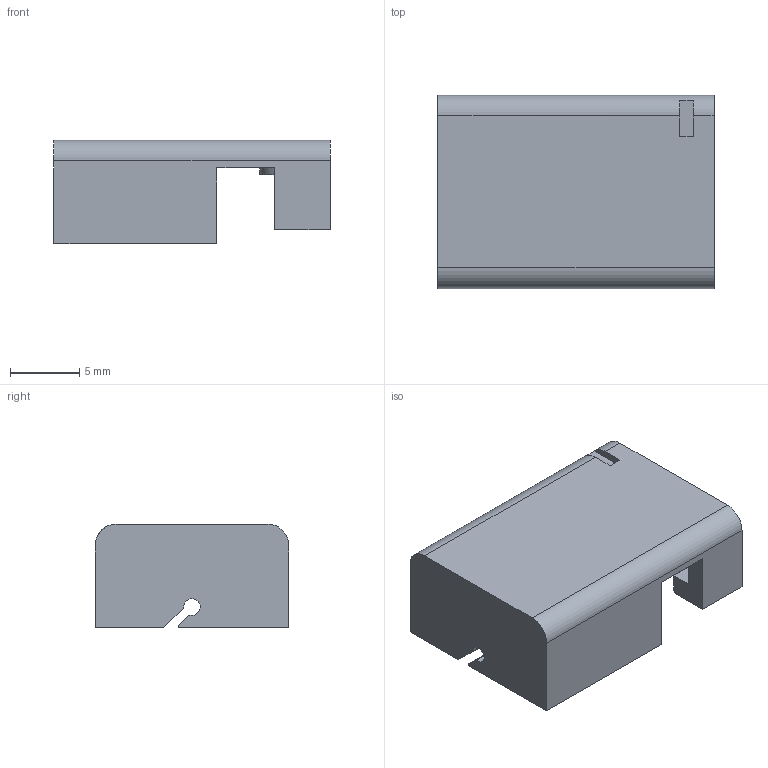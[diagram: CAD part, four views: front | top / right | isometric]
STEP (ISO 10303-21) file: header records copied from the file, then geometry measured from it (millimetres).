
FILE_DESCRIPTION(('CATIA V5 STEP Exchange'),'2;1');
FILE_NAME('C:\Users\Administrator\Desktop\拉线盖板\方案1\拉线盖板.stp','2021-10-23T02:50:22+00:00',('none'),('none'),'CATIA Version 5 Release 20 GA (IN-10)','CATIA V5 STEP AP214','none');
FILE_SCHEMA(('AUTOMOTIVE_DESIGN { 1 0 10303 214 1 1 1 1 }'));
Length unit declared in the file: millimetre
Products named in the file (1): Part3
Bounding box: 20 x 14 x 7.5 mm (x, y, z)
Volume: 1503.1 mm3; surface area: 1150.6 mm2
Topology: 1 solids, 1 shells, 52 faces, 142 edges, 93 vertices
Faces by surface type: plane 31, cylinder 19, torus 2
Entity records: 1623 total; most frequent: CARTESIAN_POINT 304, ORIENTED_EDGE 284, DIRECTION 228, EDGE_CURVE 142, VECTOR 100, LINE 100, VERTEX_POINT 93, AXIS2_PLACEMENT_3D 83
